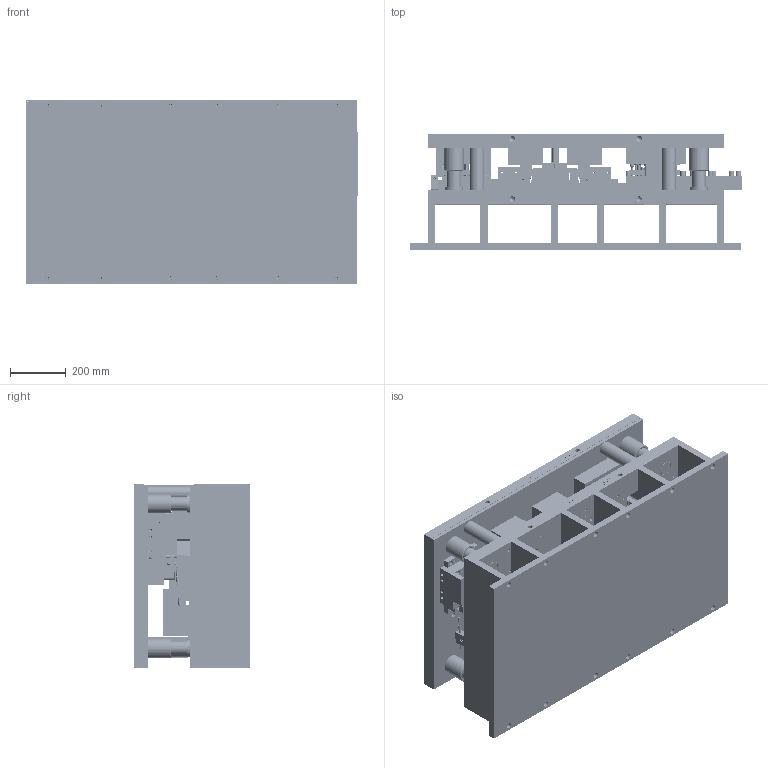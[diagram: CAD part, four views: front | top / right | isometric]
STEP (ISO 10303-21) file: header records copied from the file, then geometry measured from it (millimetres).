
FILE_DESCRIPTION (( 'STEP AP214' ), '1' );
FILE_NAME ('DI 7176 7 Inch Toggle.STEP', '2025-10-31T13:02:14', ( '' ), ( '' ), 'SwSTEP 2.0', 'SolidWorks 2023', '' );
FILE_SCHEMA (( 'AUTOMOTIVE_DESIGN' ));
Length unit declared in the file: inch
Products named in the file (74): HT Stock Guide Rail DI7176; DI7176 Blank Punch Retainer Backup; HT Right Lock Block DI7176; HT Left Cam Support DI7176; HT punch DI7176; DI7176 Cope Punch HT Side; DI7176 Wintriss Probe; HT Left Lock Backup DI7176; HT punch Retainer DI7176; DI7176 Cope Sub Plate; DI7176 Cope Punch; HT Cam Backup Key DI7176; DI7176 Stock Roller; HT Cam Head DI7176; DI7176 Spring Retainer Raised; HT Lock Guide DI7176; DI7176 Die Button Obround; HT Punch Cam DI7176; HT Lock Wear Plate DI7176; DI7176 Cope Stripper; HT Lid Spring DI7176; HT Bottom Plate Key DI7176; HT Bottom Sub-Plate DI7176; HT Punch Cam Sub Plate DI7176; DI7176 Top Shoe; DI7176 Blank Punch Retainer; DI7176 Cope Die Block; DI7176 Blank Bottom Sub Plate; HT Lock Key DI7176; DI7176 Wintriss Clamp Bottom; HT Bottom Form Insert DI7176; HT Lock Cam DI7176; DI7176 Bang Block; DI7176 Blank Locator; DI7176 Bottom Shoe; HT Lock Backup Stock Guide DI7176; DI7176 Die Post; 32271; HT punch Support DI7176; HT Punch Cam Driver Sub Plate DI7176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
Assembly tree (152 placements, depth 2):
  DI 7176 7 Inch Toggle
    DI7176 Bottom Shoe
    DI7176 Die Post  x4
    DI7176 Top Shoe
    DI7176 Die Bushing  x4
    DI7176 Die Setup Plate
    DI7176 Parallel  x6
    DI7176 Bang Block  x4
    HT Bottom Sub-Plate DI7176
    HT Bottom Plate DI7176
    HT Top Plate DI7176
    HT Bottom Form Insert DI7176
    HT Stock Guide Rail DI7176
    HT Right Lock Block DI7176
    HT Left Lock Block DI7176
    HT Lock Wear Plate DI7176  x2
    HT Right Lock Backup DI7176
    HT Left Lock Backup DI7176
    HT Lock Cam DI7176  x4
    HT Right Cam Support DI7176
    HT Cam Head DI7176  x4
    HT Top Form Insert DI7176
    HT Lock Key DI7176  x2
    HT Lock Guide DI7176  x4
    HT Bottom Plate Key DI7176
    HT punch Support DI7176
    HT Insert Key DI7176
    HT punch Retainer DI7176
    HT Punch Backup Plate DI7176
    HT Lock Backup Stock Guide DI7176  x4
    HT Cam Backup Key DI7176  x8
    HT Bottom Sub-Plate Bushing DI7176_H5612  x2
    HT Lock Cam Insert DI7176  x4
    HT punch DI7176
    HT Punch Cam DI7176
    HT Punch Cam Sub Plate DI7176
    HT Punch Cam Driver Sub Plate DI7176
    HT Punch Cam Wear Plate DI7176
    HT Lid Spring DI7176  x10
    HT Left Cam Support DI7176
    HT Bronze Insert DI7176  x4
    DI7176 Cope Sub Plate
    DI7176 Cope Punch HT Side
    DI7176 Cope Punch
    DI7176 Cope Stripper
    DI7176 Cope Die Block
    DI7176 Cope Punch Retainer
    DI7176 Cope Punch Retainer Backer Plate
    DI7176 Toggle Pierce Punch
    DI7176 Locator Pierce Punch
    DI7176 Cope Locator  x2
    DI7176 Stock Guide Bottom Sub Plate
    DI7176 Stock Guide Bottom Block
    DI7176 Blank Bottom Sub Plate
    DI7176 Blank Die Block
    DI7176 Blank Punch Retainer
    DI7176 Blank Top Sub Plate
    DI7176 Blank Punch Retainer Backup
    DI7176 Blank Punch
    DI7176 Blank Locator
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Bounding box: 1196.44 x 420.34 x 660.4 mm (x, y, z)
Volume: 132313147.9 mm3; surface area: 10864632.7 mm2
Topology: 178 solids, 178 shells, 6114 faces, 15364 edges, 9890 vertices
Faces by surface type: cylinder 3169, plane 1953, cone 811, bspline 91, torus 90
Entity records: 171169 total; most frequent: CARTESIAN_POINT 31267, DIRECTION 27512, ORIENTED_EDGE 24628, EDGE_CURVE 12314, AXIS2_PLACEMENT_3D 10600, VERTEX_POINT 8003, EDGE_LOOP 6647, VECTOR 6312
